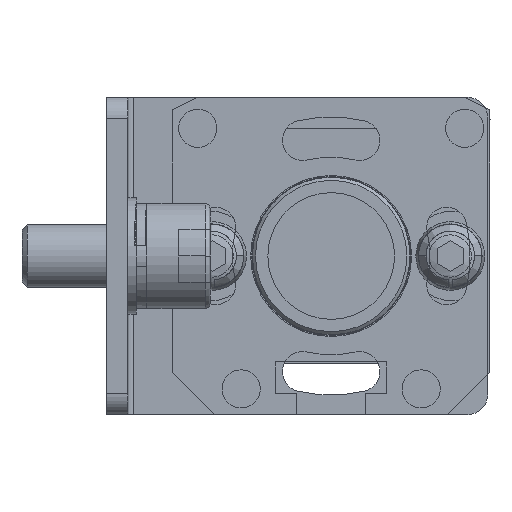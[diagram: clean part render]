
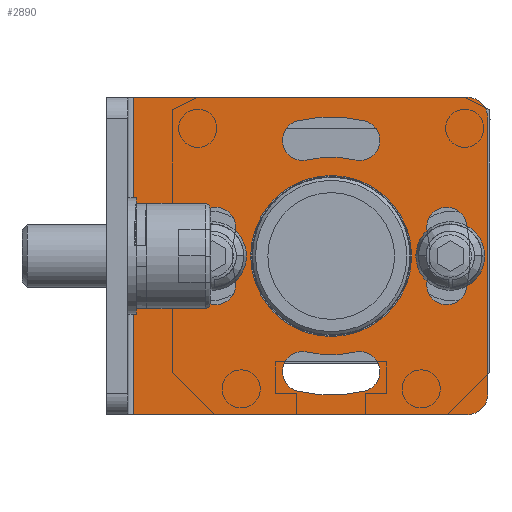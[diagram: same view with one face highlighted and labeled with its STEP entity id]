
A CAD part, front view. The second image highlights one B-rep face of the part: STEP entity #2890.
In plain terms, the highlighted planar face has unit normal (0, -1, 0).
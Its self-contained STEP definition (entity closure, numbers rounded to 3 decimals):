
#692=LINE('',#40684,#1452);
#697=LINE('',#40696,#1457);
#703=LINE('',#40712,#1463);
#707=LINE('',#40736,#1467);
#1452=VECTOR('',#13263,1.);
#1457=VECTOR('',#13272,1.);
#1463=VECTOR('',#13290,1.);
#1467=VECTOR('',#13320,1.);
#1962=PLANE('',#11082);
#2299=FACE_BOUND('',#4309,.T.);
#2300=FACE_BOUND('',#4310,.T.);
#2301=FACE_BOUND('',#4311,.T.);
#2302=FACE_BOUND('',#4312,.T.);
#2303=FACE_BOUND('',#4313,.T.);
#2304=FACE_BOUND('',#4314,.T.);
#2890=ADVANCED_FACE('',(#2299,#2300,#2301,#2302,#2303,#2304),#1962,.T.);
#4309=EDGE_LOOP('',(#6781,#6782,#6783,#6784));
#4310=EDGE_LOOP('',(#6785,#6786,#6787,#6788));
#4311=EDGE_LOOP('',(#6789,#6790,#6791,#6792));
#4312=EDGE_LOOP('',(#6793));
#4313=EDGE_LOOP('',(#6794,#6795,#6796,#6797));
#4314=EDGE_LOOP('',(#6798,#6799,#6800,#6801,#6802,#6803));
#6781=ORIENTED_EDGE('',*,*,#9603,.T.);
#6782=ORIENTED_EDGE('',*,*,#9604,.T.);
#6783=ORIENTED_EDGE('',*,*,#9542,.T.);
#6784=ORIENTED_EDGE('',*,*,#9605,.T.);
#6785=ORIENTED_EDGE('',*,*,#9606,.T.);
#6786=ORIENTED_EDGE('',*,*,#9546,.T.);
#6787=ORIENTED_EDGE('',*,*,#9607,.T.);
#6788=ORIENTED_EDGE('',*,*,#9550,.T.);
#6789=ORIENTED_EDGE('',*,*,#9608,.T.);
#6790=ORIENTED_EDGE('',*,*,#9554,.T.);
#6791=ORIENTED_EDGE('',*,*,#9609,.T.);
#6792=ORIENTED_EDGE('',*,*,#9558,.T.);
#6793=ORIENTED_EDGE('',*,*,#9563,.T.);
#6794=ORIENTED_EDGE('',*,*,#9610,.T.);
#6795=ORIENTED_EDGE('',*,*,#9611,.T.);
#6796=ORIENTED_EDGE('',*,*,#9612,.T.);
#6797=ORIENTED_EDGE('',*,*,#9564,.T.);
#6798=ORIENTED_EDGE('',*,*,#9613,.T.);
#6799=ORIENTED_EDGE('',*,*,#9614,.T.);
#6800=ORIENTED_EDGE('',*,*,#9598,.F.);
#6801=ORIENTED_EDGE('',*,*,#9584,.T.);
#6802=ORIENTED_EDGE('',*,*,#9590,.F.);
#6803=ORIENTED_EDGE('',*,*,#9615,.T.);
#8262=VERTEX_POINT('',#40594);
#8263=VERTEX_POINT('',#40595);
#8266=VERTEX_POINT('',#40603);
#8267=VERTEX_POINT('',#40604);
#8270=VERTEX_POINT('',#40612);
#8271=VERTEX_POINT('',#40613);
#8274=VERTEX_POINT('',#40621);
#8275=VERTEX_POINT('',#40622);
#8278=VERTEX_POINT('',#40630);
#8279=VERTEX_POINT('',#40631);
#8283=VERTEX_POINT('',#40641);
#8284=VERTEX_POINT('',#40644);
#8285=VERTEX_POINT('',#40645);
#8298=VERTEX_POINT('',#40681);
#8299=VERTEX_POINT('',#40683);
#8304=VERTEX_POINT('',#40695);
#8309=VERTEX_POINT('',#40713);
#8312=VERTEX_POINT('',#40723);
#8313=VERTEX_POINT('',#40724);
#8314=VERTEX_POINT('',#40732);
#8315=VERTEX_POINT('',#40734);
#8316=VERTEX_POINT('',#40737);
#8317=VERTEX_POINT('',#40738);
#9542=EDGE_CURVE('',#8262,#8263,#10244,.T.);
#9546=EDGE_CURVE('',#8266,#8267,#10246,.T.);
#9550=EDGE_CURVE('',#8270,#8271,#10248,.T.);
#9554=EDGE_CURVE('',#8274,#8275,#10250,.T.);
#9558=EDGE_CURVE('',#8278,#8279,#10252,.T.);
#9563=EDGE_CURVE('',#8283,#8283,#10255,.T.);
#9564=EDGE_CURVE('',#8284,#8285,#10256,.T.);
#9584=EDGE_CURVE('',#8298,#8299,#692,.T.);
#9590=EDGE_CURVE('',#8304,#8299,#697,.T.);
#9598=EDGE_CURVE('',#8298,#8309,#703,.T.);
#9603=EDGE_CURVE('',#8312,#8313,#10268,.T.);
#9604=EDGE_CURVE('',#8313,#8262,#10269,.T.);
#9605=EDGE_CURVE('',#8263,#8312,#10270,.T.);
#9606=EDGE_CURVE('',#8271,#8266,#10271,.T.);
#9607=EDGE_CURVE('',#8267,#8270,#10272,.T.);
#9608=EDGE_CURVE('',#8279,#8274,#10273,.T.);
#9609=EDGE_CURVE('',#8275,#8278,#10274,.T.);
#9610=EDGE_CURVE('',#8285,#8314,#10275,.T.);
#9611=EDGE_CURVE('',#8314,#8315,#10276,.T.);
#9612=EDGE_CURVE('',#8315,#8284,#10277,.T.);
#9613=EDGE_CURVE('',#8316,#8317,#707,.T.);
#9614=EDGE_CURVE('',#8317,#8309,#10278,.T.);
#9615=EDGE_CURVE('',#8304,#8316,#10279,.T.);
#10244=CIRCLE('',#11028,1.9);
#10246=CIRCLE('',#11031,13.15);
#10248=CIRCLE('',#11034,9.35);
#10250=CIRCLE('',#11037,1.9);
#10252=CIRCLE('',#11040,1.9);
#10255=CIRCLE('',#11044,7.6);
#10256=CIRCLE('',#11046,1.9);
#10268=CIRCLE('',#11070,1.9);
#10269=CIRCLE('',#11071,13.15);
#10270=CIRCLE('',#11072,9.35);
#10271=CIRCLE('',#11073,1.9);
#10272=CIRCLE('',#11074,1.9);
#10273=CIRCLE('',#11075,13.15);
#10274=CIRCLE('',#11076,9.35);
#10275=CIRCLE('',#11077,13.15);
#10276=CIRCLE('',#11078,1.9);
#10277=CIRCLE('',#11079,9.35);
#10278=CIRCLE('',#11080,2.);
#10279=CIRCLE('',#11081,2.);
#11028=AXIS2_PLACEMENT_3D('',#40593,#13179,#13180);
#11031=AXIS2_PLACEMENT_3D('',#40602,#13187,#13188);
#11034=AXIS2_PLACEMENT_3D('',#40611,#13195,#13196);
#11037=AXIS2_PLACEMENT_3D('',#40620,#13203,#13204);
#11040=AXIS2_PLACEMENT_3D('',#40629,#13211,#13212);
#11044=AXIS2_PLACEMENT_3D('',#40640,#13221,#13222);
#11046=AXIS2_PLACEMENT_3D('',#40643,#13225,#13226);
#11070=AXIS2_PLACEMENT_3D('',#40722,#13300,#13301);
#11071=AXIS2_PLACEMENT_3D('',#40725,#13302,#13303);
#11072=AXIS2_PLACEMENT_3D('',#40726,#13304,#13305);
#11073=AXIS2_PLACEMENT_3D('',#40727,#13306,#13307);
#11074=AXIS2_PLACEMENT_3D('',#40728,#13308,#13309);
#11075=AXIS2_PLACEMENT_3D('',#40729,#13310,#13311);
#11076=AXIS2_PLACEMENT_3D('',#40730,#13312,#13313);
#11077=AXIS2_PLACEMENT_3D('',#40731,#13314,#13315);
#11078=AXIS2_PLACEMENT_3D('',#40733,#13316,#13317);
#11079=AXIS2_PLACEMENT_3D('',#40735,#13318,#13319);
#11080=AXIS2_PLACEMENT_3D('',#40739,#13321,#13322);
#11081=AXIS2_PLACEMENT_3D('',#40740,#13323,#13324);
#11082=AXIS2_PLACEMENT_3D('',#40741,#13325,#13326);
#13179=DIRECTION('',(0.,1.,0.));
#13180=DIRECTION('',(0.,0.,1.));
#13187=DIRECTION('',(0.,1.,0.));
#13188=DIRECTION('',(0.,0.,1.));
#13195=DIRECTION('',(0.,-1.,0.));
#13196=DIRECTION('',(0.,0.,1.));
#13203=DIRECTION('',(0.,1.,0.));
#13204=DIRECTION('',(0.,0.,1.));
#13211=DIRECTION('',(0.,1.,0.));
#13212=DIRECTION('',(0.,0.,1.));
#13221=DIRECTION('',(0.,1.,0.));
#13222=DIRECTION('',(0.,0.,1.));
#13225=DIRECTION('',(0.,1.,0.));
#13226=DIRECTION('',(0.,0.,1.));
#13263=DIRECTION('',(0.,0.,-1.));
#13272=DIRECTION('',(-1.,0.,0.));
#13290=DIRECTION('',(1.,0.,0.));
#13300=DIRECTION('',(0.,1.,0.));
#13301=DIRECTION('',(0.,0.,1.));
#13302=DIRECTION('',(0.,1.,0.));
#13303=DIRECTION('',(0.,0.,1.));
#13304=DIRECTION('',(0.,-1.,0.));
#13305=DIRECTION('',(0.,0.,1.));
#13306=DIRECTION('',(0.,1.,0.));
#13307=DIRECTION('',(0.,0.,1.));
#13308=DIRECTION('',(0.,1.,0.));
#13309=DIRECTION('',(0.,0.,1.));
#13310=DIRECTION('',(0.,1.,0.));
#13311=DIRECTION('',(0.,0.,1.));
#13312=DIRECTION('',(0.,-1.,0.));
#13313=DIRECTION('',(0.,0.,1.));
#13314=DIRECTION('',(0.,1.,0.));
#13315=DIRECTION('',(0.,0.,1.));
#13316=DIRECTION('',(0.,1.,0.));
#13317=DIRECTION('',(0.,0.,1.));
#13318=DIRECTION('',(0.,-1.,0.));
#13319=DIRECTION('',(0.,0.,1.));
#13320=DIRECTION('',(0.,0.,1.));
#13321=DIRECTION('',(0.,-1.,0.));
#13322=DIRECTION('',(0.,0.,-1.));
#13323=DIRECTION('',(0.,-1.,0.));
#13324=DIRECTION('',(0.,0.,1.));
#13325=DIRECTION('',(0.,-1.,0.));
#13326=DIRECTION('',(1.,0.,0.));
#40593=CARTESIAN_POINT('',(-110.921,-498.,2.851));
#40594=CARTESIAN_POINT('',(-112.765,-498.,3.307));
#40595=CARTESIAN_POINT('',(-109.077,-498.,2.395));
#40602=CARTESIAN_POINT('',(-100.,-498.,0.15));
#40603=CARTESIAN_POINT('',(-103.157,-498.,12.915));
#40604=CARTESIAN_POINT('',(-96.843,-498.,12.915));
#40611=CARTESIAN_POINT('',(-100.,-498.,0.15));
#40612=CARTESIAN_POINT('',(-97.755,-498.,9.227));
#40613=CARTESIAN_POINT('',(-102.245,-498.,9.227));
#40620=CARTESIAN_POINT('',(-102.701,-498.,-10.771));
#40621=CARTESIAN_POINT('',(-103.157,-498.,-12.615));
#40622=CARTESIAN_POINT('',(-102.245,-498.,-8.927));
#40629=CARTESIAN_POINT('',(-97.299,-498.,-10.771));
#40630=CARTESIAN_POINT('',(-97.755,-498.,-8.927));
#40631=CARTESIAN_POINT('',(-96.843,-498.,-12.615));
#40640=CARTESIAN_POINT('',(-100.,-498.,0.15));
#40641=CARTESIAN_POINT('',(-100.,-498.,7.75));
#40643=CARTESIAN_POINT('',(-89.079,-498.,2.851));
#40644=CARTESIAN_POINT('',(-90.923,-498.,2.395));
#40645=CARTESIAN_POINT('',(-87.235,-498.,3.307));
#40681=CARTESIAN_POINT('',(-118.7,-498.,15.15));
#40683=CARTESIAN_POINT('',(-118.7,-498.,-14.85));
#40684=CARTESIAN_POINT('',(-118.7,-498.,15.15));
#40695=CARTESIAN_POINT('',(-87.2,-498.,-14.85));
#40696=CARTESIAN_POINT('',(-118.7,-498.,-14.85));
#40712=CARTESIAN_POINT('',(-118.7,-498.,15.15));
#40713=CARTESIAN_POINT('',(-87.2,-498.,15.15));
#40722=CARTESIAN_POINT('',(-110.921,-498.,-2.551));
#40723=CARTESIAN_POINT('',(-109.077,-498.,-2.095));
#40724=CARTESIAN_POINT('',(-112.765,-498.,-3.007));
#40725=CARTESIAN_POINT('',(-100.,-498.,0.15));
#40726=CARTESIAN_POINT('',(-100.,-498.,0.15));
#40727=CARTESIAN_POINT('',(-102.701,-498.,11.071));
#40728=CARTESIAN_POINT('',(-97.299,-498.,11.071));
#40729=CARTESIAN_POINT('',(-100.,-498.,0.15));
#40730=CARTESIAN_POINT('',(-100.,-498.,0.15));
#40731=CARTESIAN_POINT('',(-100.,-498.,0.15));
#40732=CARTESIAN_POINT('',(-87.235,-498.,-3.007));
#40733=CARTESIAN_POINT('',(-89.079,-498.,-2.551));
#40734=CARTESIAN_POINT('',(-90.923,-498.,-2.095));
#40735=CARTESIAN_POINT('',(-100.,-498.,0.15));
#40736=CARTESIAN_POINT('',(-85.2,-498.,15.15));
#40737=CARTESIAN_POINT('',(-85.2,-498.,-12.85));
#40738=CARTESIAN_POINT('',(-85.2,-498.,13.15));
#40739=CARTESIAN_POINT('',(-87.2,-498.,13.15));
#40740=CARTESIAN_POINT('',(-87.2,-498.,-12.85));
#40741=CARTESIAN_POINT('',(-85.2,-498.,15.15));
